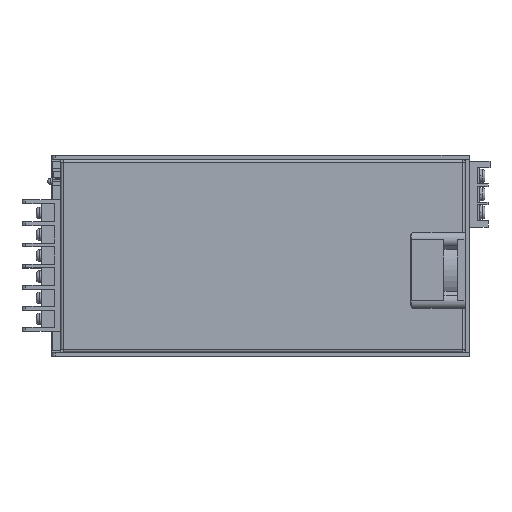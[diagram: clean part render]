
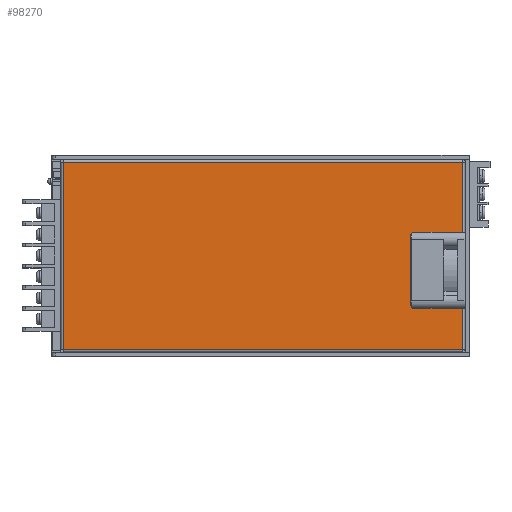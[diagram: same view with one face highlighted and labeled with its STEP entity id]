
A CAD part, top view. The second image highlights one B-rep face of the part: STEP entity #98270.
In plain terms, the highlighted planar face has unit normal (0, 0, 1).
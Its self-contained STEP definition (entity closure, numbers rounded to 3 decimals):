
#74160=CARTESIAN_POINT('',(259.578,65.858,63.5));
#74170=VERTEX_POINT('',#74160);
#76230=CARTESIAN_POINT('',(51.167,65.858,63.5));
#76240=VERTEX_POINT('',#76230);
#76270=CARTESIAN_POINT('',(181.231,65.858,63.5));
#76280=DIRECTION('',(-1.,0.,0.));
#76290=VECTOR('',#76280,1.);
#76300=LINE('',#76270,#76290);
#76310=EDGE_CURVE('',#74170,#76240,#76300,.T.);
#85960=CARTESIAN_POINT('',(51.167,163.858,63.5));
#85970=VERTEX_POINT('',#85960);
#88210=CARTESIAN_POINT('',(51.167,107.9,63.5))
;
#88220=DIRECTION('',(0.,1.,0.));
#88230=VECTOR('',#88220,1.);
#88240=LINE('',#88210,#88230);
#88250=EDGE_CURVE('',#76240,#85970,#88240,.T.);
#95720=CARTESIAN_POINT('',(259.578,163.858,63.5));
#95730=VERTEX_POINT('',#95720);
#97280=CARTESIAN_POINT('',(181.231,163.858,63.5))
;
#97290=DIRECTION('',(-1.,0.,0.));
#97300=VECTOR('',#97290,1.);
#97310=LINE('',#97280,#97300);
#97320=EDGE_CURVE('',#95730,#85970,#97310,.T.);
#97460=CARTESIAN_POINT('',(259.578,107.9,63.5)
);
#97470=DIRECTION('',(0.,-1.,0.));
#97480=VECTOR('',#97470,1.);
#97490=LINE('',#97460,#97480);
#97500=CARTESIAN_POINT('',(259.578,87.558,63.5));
#97510=VERTEX_POINT('',#97500);
#97520=EDGE_CURVE('',#97510,#74170,#97490,.T.);
#97720=CARTESIAN_POINT('',(260.878,64.558,63.5));
#97730=DIRECTION('',(0.,0.,1.));
#97740=DIRECTION('',(-1.,0.,0.));
#97750=AXIS2_PLACEMENT_3D('',#97720,#97730,#97740);
#97760=PLANE('',#97750);
#97770=ORIENTED_EDGE('',*,*,#76310,.F.);
#97780=ORIENTED_EDGE('',*,*,#88250,.F.);
#97790=ORIENTED_EDGE('',*,*,#97320,.T.);
#97800=CARTESIAN_POINT('',(259.578,127.158,63.5));
#97810=VERTEX_POINT('',#97800);
#97820=EDGE_CURVE('',#95730,#97810,#97490,.T.);
#97830=ORIENTED_EDGE('',*,*,#97820,.F.);
#97840=CARTESIAN_POINT('',(181.231,127.158,63.5))
;
#97850=DIRECTION('',(-1.,0.,0.));
#97860=VECTOR('',#97850,1.);
#97870=LINE('',#97840,#97860);
#97880=CARTESIAN_POINT('',(234.228,127.158,63.5));
#97890=VERTEX_POINT('',#97880);
#97900=EDGE_CURVE('',#97810,#97890,#97870,.T.);
#97910=ORIENTED_EDGE('',*,*,#97900,.F.);
#97920=CARTESIAN_POINT('',(234.228,125.658,63.5));
#97930=DIRECTION('',(0.,0.,1.));
#97940=DIRECTION('',(1.,0.,0.));
#97950=AXIS2_PLACEMENT_3D('',#97920,#97930,#97940);
#97960=CIRCLE('',#97950,1.5);
#97970=CARTESIAN_POINT('',(232.728,125.658,63.5));
#97980=VERTEX_POINT('',#97970);
#97990=EDGE_CURVE('',#97890,#97980,#97960,.T.);
#98000=ORIENTED_EDGE('',*,*,#97990,.F.);
#98010=CARTESIAN_POINT('',(232.728,107.9,63.5)
);
#98020=DIRECTION('',(0.,-1.,0.));
#98030=VECTOR('',#98020,1.);
#98040=LINE('',#98010,#98030);
#98050=CARTESIAN_POINT('',(232.728,89.058,63.5));
#98060=VERTEX_POINT('',#98050);
#98070=EDGE_CURVE('',#97980,#98060,#98040,.T.);
#98080=ORIENTED_EDGE('',*,*,#98070,.F.);
#98090=CARTESIAN_POINT('',(234.228,89.058,63.5));
#98100=DIRECTION('',(0.,0.,1.));
#98110=DIRECTION('',(1.,0.,0.));
#98120=AXIS2_PLACEMENT_3D('',#98090,#98100,#98110);
#98130=CIRCLE('',#98120,1.5);
#98140=CARTESIAN_POINT('',(234.228,87.558,63.5));
#98150=VERTEX_POINT('',#98140);
#98160=EDGE_CURVE('',#98060,#98150,#98130,.T.);
#98170=ORIENTED_EDGE('',*,*,#98160,.F.);
#98180=CARTESIAN_POINT('',(181.231,87.558,63.5));
#98190=DIRECTION('',(1.,0.,0.));
#98200=VECTOR('',#98190,1.);
#98210=LINE('',#98180,#98200);
#98220=EDGE_CURVE('',#98150,#97510,#98210,.T.);
#98230=ORIENTED_EDGE('',*,*,#98220,.F.);
#98240=ORIENTED_EDGE('',*,*,#97520,.F.);
#98250=EDGE_LOOP('',(#98240,#98230,#98170,#98080,#98000,#97910,#97830,
#97790,#97780,#97770));
#98260=FACE_OUTER_BOUND('',#98250,.T.);
#98270=ADVANCED_FACE('',(#98260),#97760,.T.);
